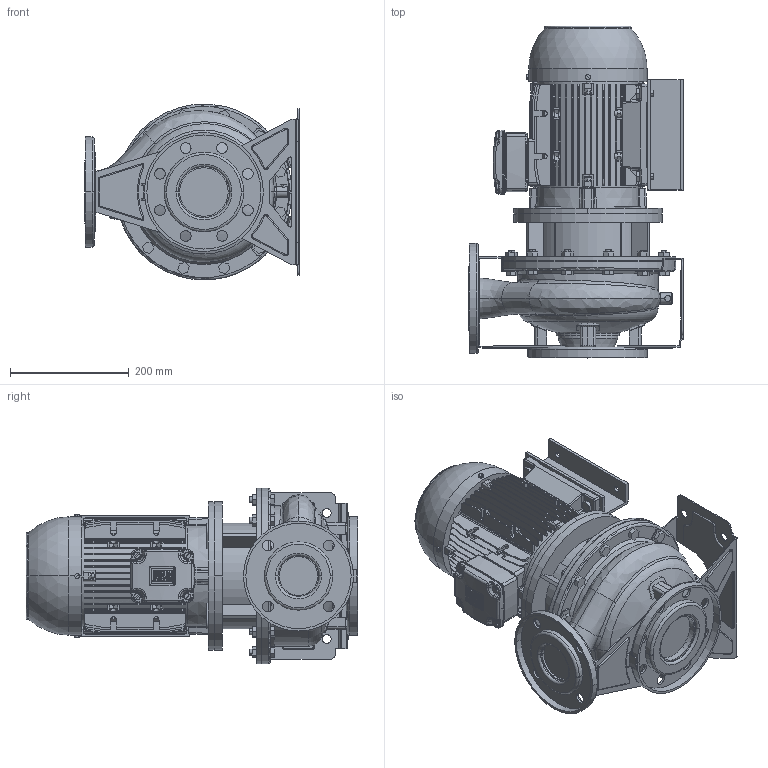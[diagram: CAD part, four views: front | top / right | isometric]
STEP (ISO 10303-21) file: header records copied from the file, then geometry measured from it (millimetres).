
FILE_DESCRIPTION (( 'STEP AP214' ), '1' );
FILE_NAME ('3LS4 65-160_2.2_(100L)_W21.STEP', '2026-10-05T01:30:13', ( '' ), ( '' ), 'SwSTEP 2.0', 'SolidWorks 2024', '' );
FILE_SCHEMA (( 'AUTOMOTIVE_DESIGN' ));
Length unit declared in the file: inch
Products named in the file (3): 3LS4 65-160_2.2_(100L)_W21; 3SF4_65-160_2_2; 100L ALIE3_W21T_B35
Assembly tree (2 placements, depth 2):
  3LS4 65-160_2.2_(100L)_W21
    3SF4_65-160_2_2
    100L ALIE3_W21T_B35
Bounding box: 360 x 558.1 x 295.54 mm (x, y, z)
Volume: 16435184.5 mm3; surface area: 1718309.1 mm2
Topology: 17 solids, 17 shells, 3490 faces, 9104 edges, 5908 vertices
Faces by surface type: plane 2249, cylinder 759, torus 190, bspline 142, cone 126, sphere 24
Entity records: 154974 total; most frequent: CARTESIAN_POINT 69825, ORIENTED_EDGE 18184, DIRECTION 16714, EDGE_CURVE 9092, LINE 6164, VECTOR 6164, VERTEX_POINT 5908, AXIS2_PLACEMENT_3D 5275
